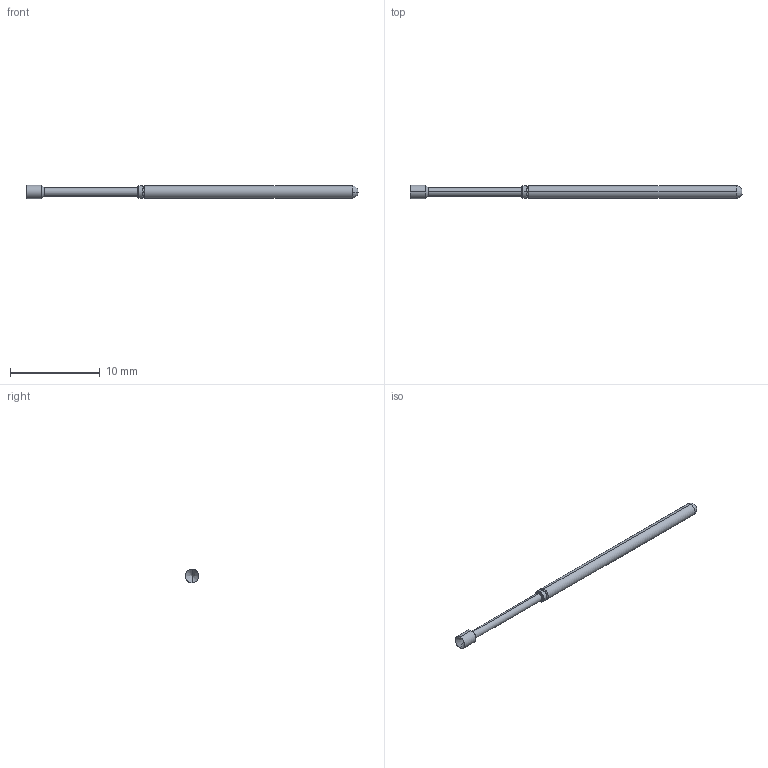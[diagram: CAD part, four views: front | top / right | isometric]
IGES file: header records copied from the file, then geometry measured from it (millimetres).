
Start section: SolidWorks IGES file using analytic representation for surfaces
Global section: file name: Z:\probe solid model mockups\Solidworks models\LTP-25\LTP-25A.IGS; native system: SolidWorks 2006 by SolidWorks Corporation; preprocessor: SolidWorks 2006 by SolidWorks Corporation; author: tsakatani; date: 071214.142946; units: inch
Bounding box: 37.08 x 1.52 x 1.52 mm (x, y, z)
Surface area: 149.6 mm2 (no closed solid volume)
Topology: 0 solids, 0 shells, 24 faces, 140 edges, 138 vertices
Faces by surface type: revolution 18, bspline 6
